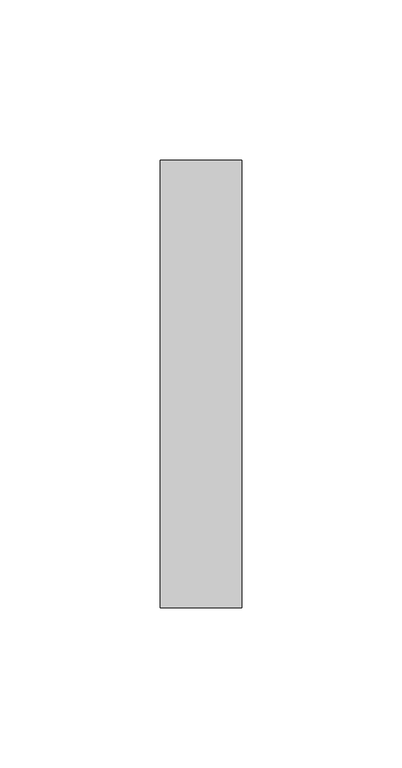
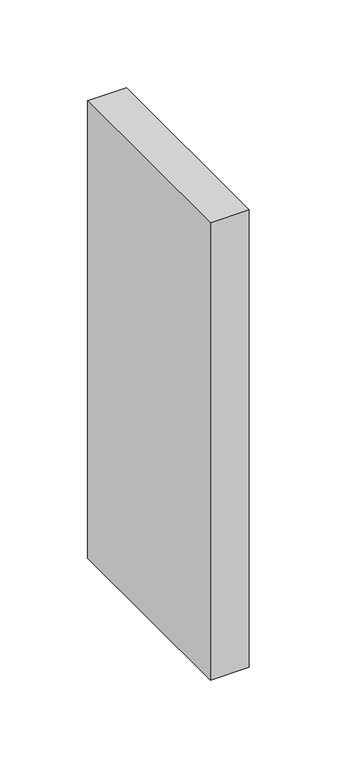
"""IFC4 building model written with IfcOpenShell, lengths in millimetres: proxy geometry, CAMBRIDGE^TABLE 2_4884 Rect-BOTTOM STILE 4."""

from ifc_helpers import new_model, si_unit, frame, origin, place, context, project, spatial, polyline, outline, extrude, source, transform, mapped, element, save


def generic_models_c747732e(model_context):
    return source(origin(), model_context, "Body", "SweptSolid", [
        extrude(outline(polyline([(1524.0, -711.2), (1498.6, -711.2), (1498.6, -571.5), (1524.0, -571.5), (1524.0, -711.2)])), frame((0.0, 0.0, -768.35), z_axis=(0.0, 0.0, 1.0), x_axis=(1.0, 0.0, 0.0)), (0.0, 0.0, 1.0), 317.5),
    ])


if __name__ == "__main__":
    model = new_model("IFC4")
    model_context = context("Model", 3, world=origin())
    ifc_project = project(units=[si_unit("LENGTHUNIT", "METRE", prefix="MILLI")], contexts=[model_context])
    site = spatial("IfcSite", under=ifc_project)
    building = spatial("IfcBuilding", under=site)
    placement = place(None, origin())
    generic_models_shape = generic_models_c747732e(model_context)
    element("IfcBuildingElementProxy", 1, Name="CAMBRIDGE^TABLE 2_4884 Rect-BOTTOM STILE 4", ObjectType="CAMBRIDGE^TABLE 2_4884 Rect-BOTTOM STILE 4", at=placement, inside=building, context=model_context, shape_type="MappedRepresentation", body=[
        mapped(generic_models_shape, transform((0.0, 0.0, 0.0), x_axis=(1.0, 0.0, 0.0), y_axis=(0.0, 1.0, 0.0), z_axis=(0.0, 0.0, 1.0))),
    ])
    save(model, "model.ifc")
